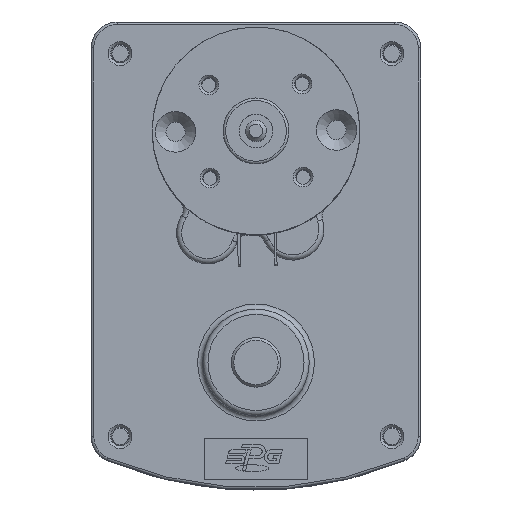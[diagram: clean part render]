
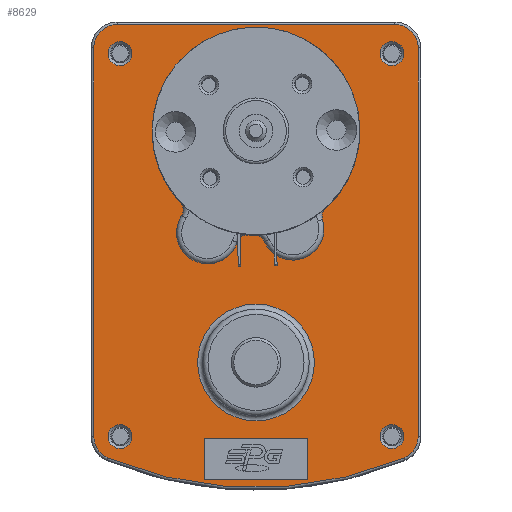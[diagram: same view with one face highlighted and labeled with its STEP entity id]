
A CAD part, top view. The second image highlights one B-rep face of the part: STEP entity #8629.
In plain terms, the highlighted planar face has unit normal (0, 0, 1).
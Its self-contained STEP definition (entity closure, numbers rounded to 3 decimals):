
#268=LINE('',#13046,#745);
#270=LINE('',#13058,#747);
#272=LINE('',#13070,#749);
#417=LINE('',#13647,#894);
#419=LINE('',#13651,#896);
#421=LINE('',#13655,#898);
#423=LINE('',#13658,#900);
#745=VECTOR('',#10212,74.87);
#747=VECTOR('',#10226,53.5);
#749=VECTOR('',#10240,74.87);
#894=VECTOR('',#10721,8.);
#896=VECTOR('',#10725,20.);
#898=VECTOR('',#10729,8.);
#900=VECTOR('',#10733,20.);
#1459=PLANE('',#9665);
#1800=FACE_BOUND('',#3070,.T.);
#1801=FACE_BOUND('',#3071,.T.);
#1802=FACE_BOUND('',#3072,.T.);
#1803=FACE_BOUND('',#3073,.T.);
#1804=FACE_BOUND('',#3074,.T.);
#1805=FACE_BOUND('',#3075,.T.);
#1806=FACE_BOUND('',#3076,.T.);
#2365=FACE_OUTER_BOUND('',#3069,.T.);
#3069=EDGE_LOOP('',(#7744,#7745,#7746,#7747,#7748,#7749,#7750,#7751));
#3070=EDGE_LOOP('',(#7752));
#3071=EDGE_LOOP('',(#7753,#7754,#7755,#7756));
#3072=EDGE_LOOP('',(#7757));
#3073=EDGE_LOOP('',(#7758));
#3074=EDGE_LOOP('',(#7759));
#3075=EDGE_LOOP('',(#7760,#7761,#7762,#7763,#7764,#7765,#7766,#7767));
#3076=EDGE_LOOP('',(#7768));
#3329=CIRCLE('',#8895,4.5);
#3335=CIRCLE('',#8903,4.5);
#3339=CIRCLE('',#8909,4.5);
#3343=CIRCLE('',#8915,4.5);
#3345=CIRCLE('',#8918,74.29);
#3424=CIRCLE('',#9072,2.3);
#3425=CIRCLE('',#9074,2.3);
#3426=CIRCLE('',#9076,2.3);
#3427=CIRCLE('',#9078,2.3);
#3677=CIRCLE('',#9607,6.);
#3679=CIRCLE('',#9610,2.);
#3681=CIRCLE('',#9613,2.);
#3683=CIRCLE('',#9616,20.);
#3685=CIRCLE('',#9619,2.);
#3687=CIRCLE('',#9622,6.);
#3689=CIRCLE('',#9625,2.);
#3691=CIRCLE('',#9628,20.);
#3704=CIRCLE('',#9666,11.25);
#3887=VERTEX_POINT('',#13034);
#3888=VERTEX_POINT('',#13036);
#3890=VERTEX_POINT('',#13042);
#3892=VERTEX_POINT('',#13048);
#3894=VERTEX_POINT('',#13054);
#3896=VERTEX_POINT('',#13060);
#3898=VERTEX_POINT('',#13066);
#3900=VERTEX_POINT('',#13072);
#4060=VERTEX_POINT('',#13632);
#4061=VERTEX_POINT('',#13635);
#4062=VERTEX_POINT('',#13638);
#4063=VERTEX_POINT('',#13641);
#4064=VERTEX_POINT('',#13644);
#4065=VERTEX_POINT('',#13646);
#4066=VERTEX_POINT('',#13650);
#4067=VERTEX_POINT('',#13654);
#4464=VERTEX_POINT('',#15758);
#4465=VERTEX_POINT('',#15760);
#4467=VERTEX_POINT('',#15766);
#4469=VERTEX_POINT('',#15772);
#4471=VERTEX_POINT('',#15778);
#4473=VERTEX_POINT('',#15784);
#4475=VERTEX_POINT('',#15790);
#4477=VERTEX_POINT('',#15796);
#4486=VERTEX_POINT('',#15858);
#4720=EDGE_CURVE('',#3887,#3888,#3329,.T.);
#4725=EDGE_CURVE('',#3888,#3890,#268,.T.);
#4728=EDGE_CURVE('',#3890,#3892,#3335,.T.);
#4731=EDGE_CURVE('',#3892,#3894,#270,.T.);
#4734=EDGE_CURVE('',#3894,#3896,#3339,.T.);
#4737=EDGE_CURVE('',#3896,#3898,#272,.T.);
#4740=EDGE_CURVE('',#3898,#3900,#3343,.T.);
#4742=EDGE_CURVE('',#3900,#3887,#3345,.T.);
#4966=EDGE_CURVE('',#4060,#4060,#3424,.T.);
#4967=EDGE_CURVE('',#4061,#4061,#3425,.T.);
#4968=EDGE_CURVE('',#4062,#4062,#3426,.T.);
#4969=EDGE_CURVE('',#4063,#4063,#3427,.T.);
#4971=EDGE_CURVE('',#4065,#4064,#417,.T.);
#4973=EDGE_CURVE('',#4066,#4065,#419,.T.);
#4975=EDGE_CURVE('',#4067,#4066,#421,.T.);
#4977=EDGE_CURVE('',#4064,#4067,#423,.T.);
#5569=EDGE_CURVE('',#4465,#4464,#3677,.T.);
#5572=EDGE_CURVE('',#4467,#4465,#3679,.T.);
#5576=EDGE_CURVE('',#4464,#4469,#3681,.T.);
#5578=EDGE_CURVE('',#4471,#4467,#3683,.T.);
#5581=EDGE_CURVE('',#4473,#4471,#3685,.T.);
#5584=EDGE_CURVE('',#4475,#4473,#3687,.T.);
#5587=EDGE_CURVE('',#4477,#4475,#3689,.T.);
#5590=EDGE_CURVE('',#4469,#4477,#3691,.T.);
#5614=EDGE_CURVE('',#4486,#4486,#3704,.T.);
#7744=ORIENTED_EDGE('',*,*,#4720,.F.);
#7745=ORIENTED_EDGE('',*,*,#4742,.F.);
#7746=ORIENTED_EDGE('',*,*,#4740,.F.);
#7747=ORIENTED_EDGE('',*,*,#4737,.F.);
#7748=ORIENTED_EDGE('',*,*,#4734,.F.);
#7749=ORIENTED_EDGE('',*,*,#4731,.F.);
#7750=ORIENTED_EDGE('',*,*,#4728,.F.);
#7751=ORIENTED_EDGE('',*,*,#4725,.F.);
#7752=ORIENTED_EDGE('',*,*,#4966,.F.);
#7753=ORIENTED_EDGE('',*,*,#4971,.T.);
#7754=ORIENTED_EDGE('',*,*,#4977,.T.);
#7755=ORIENTED_EDGE('',*,*,#4975,.T.);
#7756=ORIENTED_EDGE('',*,*,#4973,.T.);
#7757=ORIENTED_EDGE('',*,*,#4969,.F.);
#7758=ORIENTED_EDGE('',*,*,#4968,.F.);
#7759=ORIENTED_EDGE('',*,*,#4967,.F.);
#7760=ORIENTED_EDGE('',*,*,#5581,.T.);
#7761=ORIENTED_EDGE('',*,*,#5578,.T.);
#7762=ORIENTED_EDGE('',*,*,#5572,.T.);
#7763=ORIENTED_EDGE('',*,*,#5569,.T.);
#7764=ORIENTED_EDGE('',*,*,#5576,.T.);
#7765=ORIENTED_EDGE('',*,*,#5590,.T.);
#7766=ORIENTED_EDGE('',*,*,#5587,.T.);
#7767=ORIENTED_EDGE('',*,*,#5584,.T.);
#7768=ORIENTED_EDGE('',*,*,#5614,.F.);
#8629=ADVANCED_FACE('',(#2365,#1800,#1801,#1802,#1803,#1804,#1805,#1806),
#1459,.T.);
#8895=AXIS2_PLACEMENT_3D('',#13037,#10201,#10202);
#8903=AXIS2_PLACEMENT_3D('',#13052,#10219,#10220);
#8909=AXIS2_PLACEMENT_3D('',#13064,#10233,#10234);
#8915=AXIS2_PLACEMENT_3D('',#13076,#10247,#10248);
#8918=AXIS2_PLACEMENT_3D('',#13079,#10253,#10254);
#9072=AXIS2_PLACEMENT_3D('',#13633,#10704,#10705);
#9074=AXIS2_PLACEMENT_3D('',#13636,#10708,#10709);
#9076=AXIS2_PLACEMENT_3D('',#13639,#10712,#10713);
#9078=AXIS2_PLACEMENT_3D('',#13642,#10716,#10717);
#9607=AXIS2_PLACEMENT_3D('',#15761,#11992,#11993);
#9610=AXIS2_PLACEMENT_3D('',#15767,#11999,#12000);
#9613=AXIS2_PLACEMENT_3D('',#15774,#12007,#12008);
#9616=AXIS2_PLACEMENT_3D('',#15779,#12013,#12014);
#9619=AXIS2_PLACEMENT_3D('',#15785,#12020,#12021);
#9622=AXIS2_PLACEMENT_3D('',#15791,#12027,#12028);
#9625=AXIS2_PLACEMENT_3D('',#15797,#12034,#12035);
#9628=AXIS2_PLACEMENT_3D('',#15801,#12041,#12042);
#9665=AXIS2_PLACEMENT_3D('',#15857,#12126,#12127);
#9666=AXIS2_PLACEMENT_3D('',#15859,#12128,#12129);
#10201=DIRECTION('center_axis',(0.,0.,-1.));
#10202=DIRECTION('ref_axis',(-0.832,-0.555,0.));
#10212=DIRECTION('',(0.,1.,0.));
#10219=DIRECTION('center_axis',(0.,0.,-1.));
#10220=DIRECTION('ref_axis',(-0.707,0.707,0.));
#10226=DIRECTION('',(1.,0.,0.));
#10233=DIRECTION('center_axis',(0.,0.,-1.));
#10234=DIRECTION('ref_axis',(0.707,0.707,0.));
#10240=DIRECTION('',(0.,-1.,0.));
#10247=DIRECTION('center_axis',(0.,0.,-1.));
#10248=DIRECTION('ref_axis',(0.832,-0.555,0.));
#10253=DIRECTION('center_axis',(0.,0.,-1.));
#10254=DIRECTION('ref_axis',(0.,-1.,0.));
#10704=DIRECTION('center_axis',(0.,0.,1.));
#10705=DIRECTION('ref_axis',(1.,0.,0.));
#10708=DIRECTION('center_axis',(0.,0.,1.));
#10709=DIRECTION('ref_axis',(1.,0.,0.));
#10712=DIRECTION('center_axis',(0.,0.,1.));
#10713=DIRECTION('ref_axis',(1.,0.,0.));
#10716=DIRECTION('center_axis',(0.,0.,1.));
#10717=DIRECTION('ref_axis',(1.,0.,0.));
#10721=DIRECTION('',(0.,1.,0.));
#10725=DIRECTION('',(-1.,0.,0.));
#10729=DIRECTION('',(0.,-1.,0.));
#10733=DIRECTION('',(1.,0.,0.));
#11992=DIRECTION('center_axis',(0.,0.,-1.));
#11993=DIRECTION('ref_axis',(0.98,0.197,0.));
#11999=DIRECTION('center_axis',(0.,0.,1.));
#12000=DIRECTION('ref_axis',(-0.965,0.261,0.));
#12007=DIRECTION('center_axis',(0.,0.,1.));
#12008=DIRECTION('ref_axis',(0.551,0.835,0.));
#12013=DIRECTION('center_axis',(0.,0.,-1.));
#12014=DIRECTION('ref_axis',(-0.615,0.789,0.));
#12020=DIRECTION('center_axis',(0.,0.,1.));
#12021=DIRECTION('ref_axis',(0.996,0.086,0.));
#12027=DIRECTION('center_axis',(0.,0.,-1.));
#12028=DIRECTION('ref_axis',(0.656,-0.755,0.));
#12034=DIRECTION('center_axis',(0.,0.,1.));
#12035=DIRECTION('ref_axis',(-0.558,0.83,0.));
#12041=DIRECTION('center_axis',(0.,0.,-1.));
#12042=DIRECTION('ref_axis',(0.167,0.986,0.));
#12126=DIRECTION('center_axis',(0.,0.,1.));
#12127=DIRECTION('ref_axis',(1.,0.,0.));
#12128=DIRECTION('center_axis',(0.,0.,1.));
#12129=DIRECTION('ref_axis',(-1.,0.,0.));
#13034=CARTESIAN_POINT('',(-28.475,-69.226,0.));
#13036=CARTESIAN_POINT('',(-31.25,-65.07,0.));
#13037=CARTESIAN_POINT('Origin',(-26.75,-65.07,0.));
#13042=CARTESIAN_POINT('',(-31.25,9.8,0.));
#13046=CARTESIAN_POINT('',(-31.25,-65.07,0.));
#13048=CARTESIAN_POINT('',(-26.75,14.3,0.));
#13052=CARTESIAN_POINT('Origin',(-26.75,9.8,0.));
#13054=CARTESIAN_POINT('',(26.75,14.3,0.));
#13058=CARTESIAN_POINT('',(-26.75,14.3,0.));
#13060=CARTESIAN_POINT('',(31.25,9.8,0.));
#13064=CARTESIAN_POINT('Origin',(26.75,9.8,0.));
#13066=CARTESIAN_POINT('',(31.25,-65.07,0.));
#13070=CARTESIAN_POINT('',(31.25,9.8,0.));
#13072=CARTESIAN_POINT('',(28.475,-69.226,0.));
#13076=CARTESIAN_POINT('Origin',(26.75,-65.07,0.));
#13079=CARTESIAN_POINT('Origin',(0.,-0.61,0.));
#13632=CARTESIAN_POINT('',(23.89,-65.07,0.));
#13633=CARTESIAN_POINT('Origin',(26.19,-65.07,0.));
#13635=CARTESIAN_POINT('',(23.89,8.71,0.));
#13636=CARTESIAN_POINT('Origin',(26.19,8.71,0.));
#13638=CARTESIAN_POINT('',(-28.49,8.71,0.));
#13639=CARTESIAN_POINT('Origin',(-26.19,8.71,0.));
#13641=CARTESIAN_POINT('',(-28.49,-65.07,0.));
#13642=CARTESIAN_POINT('Origin',(-26.19,-65.07,0.));
#13644=CARTESIAN_POINT('',(-10.,-65.4,0.));
#13646=CARTESIAN_POINT('',(-10.,-73.4,0.));
#13647=CARTESIAN_POINT('',(-10.,-73.4,0.));
#13650=CARTESIAN_POINT('',(10.,-73.4,0.));
#13651=CARTESIAN_POINT('',(10.,-73.4,0.));
#13654=CARTESIAN_POINT('',(10.,-65.4,0.));
#13655=CARTESIAN_POINT('',(10.,-65.4,0.));
#13658=CARTESIAN_POINT('',(-10.,-65.4,0.));
#15758=CARTESIAN_POINT('',(1.607,-27.494,0.));
#15760=CARTESIAN_POINT('',(12.816,-23.256,0.));
#15761=CARTESIAN_POINT('Origin',(7.1,-25.08,0.));
#15766=CARTESIAN_POINT('',(13.383,-21.162,0.));
#15767=CARTESIAN_POINT('Origin',(14.722,-22.649,0.));
#15772=CARTESIAN_POINT('',(-0.204,-26.299,0.));
#15774=CARTESIAN_POINT('Origin',(-0.224,-28.299,0.));
#15778=CARTESIAN_POINT('',(-14.551,-20.021,0.));
#15779=CARTESIAN_POINT('Origin',(0.,-6.3,
0.));
#15784=CARTESIAN_POINT('',(-14.337,-22.495,0.));
#15785=CARTESIAN_POINT('Origin',(-16.007,-21.393,0.));
#15790=CARTESIAN_POINT('',(-3.614,-27.625,0.));
#15791=CARTESIAN_POINT('Origin',(-9.33,-25.8,0.));
#15796=CARTESIAN_POINT('',(-1.554,-26.24,0.));
#15797=CARTESIAN_POINT('Origin',(-1.709,-28.234,0.));
#15801=CARTESIAN_POINT('Origin',(0.,-6.3,
0.));
#15857=CARTESIAN_POINT('Origin',(0.,-27.996,0.));
#15858=CARTESIAN_POINT('',(11.25,-50.8,0.));
#15859=CARTESIAN_POINT('Origin',(0.,-50.8,0.));
